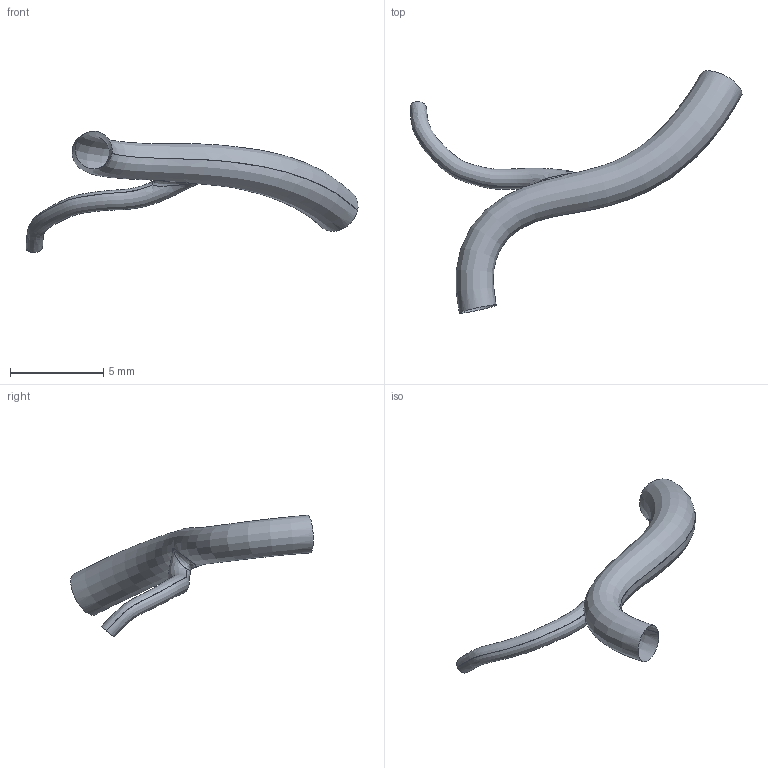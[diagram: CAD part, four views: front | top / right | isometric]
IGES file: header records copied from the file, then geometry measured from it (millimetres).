
Global section: file name: C:\Documents and Settings\Administrator\Desktop\FDA-Pig\Domestic RCA\Pig_000137\avc.es.igs; native system: Rhinoceros ( May 19 2006 ); preprocessor: Trout Lake IGES 012 May 19 2006; date: 111205.185804; units: centimetre
Bounding box: 17.76 x 12.98 x 6.5 mm (x, y, z)
Surface area: 170.6 mm2 (no closed solid volume)
Topology: 0 solids, 0 shells, 3 faces, 52 edges, 49 vertices
Faces by surface type: bspline 3
